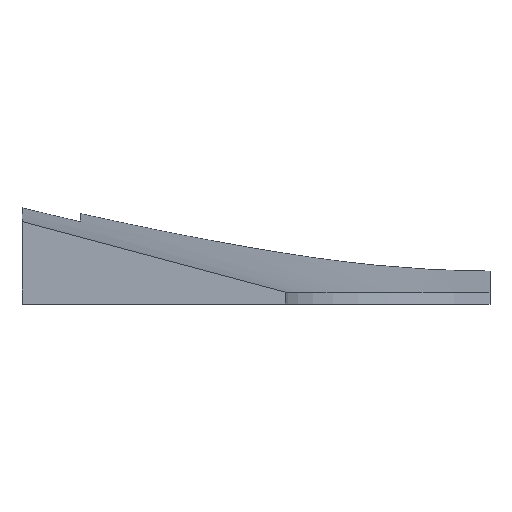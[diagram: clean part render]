
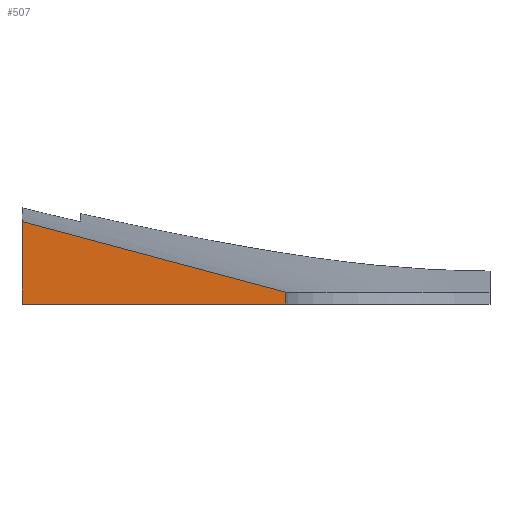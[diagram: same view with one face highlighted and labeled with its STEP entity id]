
A CAD part, left-side view. The second image highlights one B-rep face of the part: STEP entity #507.
In plain terms, the highlighted planar face has unit normal (-1, 0, 0).
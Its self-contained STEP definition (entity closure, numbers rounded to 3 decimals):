
#31 = CONICAL_SURFACE('',#32,112.,1.309);
#32 = AXIS2_PLACEMENT_3D('',#33,#34,#35);
#33 = CARTESIAN_POINT('',(0.,-46.,6.5));
#34 = DIRECTION('',(0.,0.,1.));
#35 = DIRECTION('',(1.,0.,0.));
#54 = VERTEX_POINT('',#55);
#55 = CARTESIAN_POINT('',(0.,66.,6.5));
#70 = CYLINDRICAL_SURFACE('',#71,112.);
#71 = AXIS2_PLACEMENT_3D('',#72,#73,#74);
#72 = CARTESIAN_POINT('',(0.,-46.,-1.));
#73 = DIRECTION('',(-0.,-0.,-1.));
#74 = DIRECTION('',(1.,0.,0.));
#82 = EDGE_CURVE('',#54,#83,#85,.T.);
#83 = VERTEX_POINT('',#84);
#84 = CARTESIAN_POINT('',(0.,210.,45.09));
#85 = SURFACE_CURVE('',#86,(#90,#96),.PCURVE_S1.);
#86 = LINE('',#87,#88);
#87 = CARTESIAN_POINT('',(0.,-46.,-23.515));
#88 = VECTOR('',#89,1.);
#89 = DIRECTION('',(-0.,0.966,0.259));
#90 = PCURVE('',#31,#91);
#91 = DEFINITIONAL_REPRESENTATION('',(#92),#95);
#92 = B_SPLINE_CURVE_WITH_KNOTS('',1,(#93,#94),.UNSPECIFIED.,.F.,.F.,(2,
    2),(115.952,294.038),.PIECEWISE_BEZIER_KNOTS.);
#93 = CARTESIAN_POINT('',(1.571,0.));
#94 = CARTESIAN_POINT('',(1.571,46.098));
#95 = ( GEOMETRIC_REPRESENTATION_CONTEXT(2) 
PARAMETRIC_REPRESENTATION_CONTEXT() REPRESENTATION_CONTEXT('2D SPACE',''
  ) );
#96 = PCURVE('',#97,#102);
#97 = PLANE('',#98);
#98 = AXIS2_PLACEMENT_3D('',#99,#100,#101);
#99 = CARTESIAN_POINT('',(0.,-46.,-2.));
#100 = DIRECTION('',(1.,0.,0.));
#101 = DIRECTION('',(0.,0.,1.));
#102 = DEFINITIONAL_REPRESENTATION('',(#103),#106);
#103 = B_SPLINE_CURVE_WITH_KNOTS('',1,(#104,#105),.UNSPECIFIED.,.F.,.F.,
  (2,2),(115.952,294.038),.PIECEWISE_BEZIER_KNOTS.);
#104 = CARTESIAN_POINT('',(8.5,-112.));
#105 = CARTESIAN_POINT('',(54.598,-284.016));
#106 = ( GEOMETRIC_REPRESENTATION_CONTEXT(2) 
PARAMETRIC_REPRESENTATION_CONTEXT() REPRESENTATION_CONTEXT('2D SPACE',''
  ) );
#136 = PLANE('',#137);
#137 = AXIS2_PLACEMENT_3D('',#138,#139,#140);
#138 = CARTESIAN_POINT('',(-155.,210.,0.));
#139 = DIRECTION('',(0.,1.,0.));
#140 = DIRECTION('',(0.,0.,1.));
#311 = PLANE('',#312);
#312 = AXIS2_PLACEMENT_3D('',#313,#314,#315);
#313 = CARTESIAN_POINT('',(-155.,-210.,0.));
#314 = DIRECTION('',(0.,0.,1.));
#315 = DIRECTION('',(1.,0.,0.));
#467 = VERTEX_POINT('',#468);
#468 = CARTESIAN_POINT('',(0.,210.,0.));
#489 = EDGE_CURVE('',#83,#467,#490,.T.);
#490 = SURFACE_CURVE('',#491,(#495,#501),.PCURVE_S1.);
#491 = LINE('',#492,#493);
#492 = CARTESIAN_POINT('',(0.,210.,-1.));
#493 = VECTOR('',#494,1.);
#494 = DIRECTION('',(0.,0.,-1.));
#495 = PCURVE('',#136,#496);
#496 = DEFINITIONAL_REPRESENTATION('',(#497),#500);
#497 = B_SPLINE_CURVE_WITH_KNOTS('',1,(#498,#499),.UNSPECIFIED.,.F.,.F.,
  (2,2),(-53.598,-1.),.PIECEWISE_BEZIER_KNOTS.);
#498 = CARTESIAN_POINT('',(52.598,155.));
#499 = CARTESIAN_POINT('',(0.,155.));
#500 = ( GEOMETRIC_REPRESENTATION_CONTEXT(2) 
PARAMETRIC_REPRESENTATION_CONTEXT() REPRESENTATION_CONTEXT('2D SPACE',''
  ) );
#501 = PCURVE('',#97,#502);
#502 = DEFINITIONAL_REPRESENTATION('',(#503),#506);
#503 = B_SPLINE_CURVE_WITH_KNOTS('',1,(#504,#505),.UNSPECIFIED.,.F.,.F.,
  (2,2),(-53.598,-1.),.PIECEWISE_BEZIER_KNOTS.);
#504 = CARTESIAN_POINT('',(54.598,-256.));
#505 = CARTESIAN_POINT('',(2.,-256.));
#506 = ( GEOMETRIC_REPRESENTATION_CONTEXT(2) 
PARAMETRIC_REPRESENTATION_CONTEXT() REPRESENTATION_CONTEXT('2D SPACE',''
  ) );
#507 = ADVANCED_FACE('',(#508),#97,.F.);
#508 = FACE_BOUND('',#509,.F.);
#509 = EDGE_LOOP('',(#510,#511,#532,#551));
#510 = ORIENTED_EDGE('',*,*,#82,.F.);
#511 = ORIENTED_EDGE('',*,*,#512,.T.);
#512 = EDGE_CURVE('',#54,#513,#515,.T.);
#513 = VERTEX_POINT('',#514);
#514 = CARTESIAN_POINT('',(0.,66.,0.));
#515 = SURFACE_CURVE('',#516,(#520,#526),.PCURVE_S1.);
#516 = LINE('',#517,#518);
#517 = CARTESIAN_POINT('',(0.,66.,-1.));
#518 = VECTOR('',#519,1.);
#519 = DIRECTION('',(-0.,-0.,-1.));
#520 = PCURVE('',#97,#521);
#521 = DEFINITIONAL_REPRESENTATION('',(#522),#525);
#522 = B_SPLINE_CURVE_WITH_KNOTS('',1,(#523,#524),.UNSPECIFIED.,.F.,.F.,
  (2,2),(-7.5,-1.),.PIECEWISE_BEZIER_KNOTS.);
#523 = CARTESIAN_POINT('',(8.5,-112.));
#524 = CARTESIAN_POINT('',(2.,-112.));
#525 = ( GEOMETRIC_REPRESENTATION_CONTEXT(2) 
PARAMETRIC_REPRESENTATION_CONTEXT() REPRESENTATION_CONTEXT('2D SPACE',''
  ) );
#526 = PCURVE('',#70,#527);
#527 = DEFINITIONAL_REPRESENTATION('',(#528),#531);
#528 = B_SPLINE_CURVE_WITH_KNOTS('',1,(#529,#530),.UNSPECIFIED.,.F.,.F.,
  (2,2),(-7.5,-1.),.PIECEWISE_BEZIER_KNOTS.);
#529 = CARTESIAN_POINT('',(-1.571,-7.5));
#530 = CARTESIAN_POINT('',(-1.571,-1.));
#531 = ( GEOMETRIC_REPRESENTATION_CONTEXT(2) 
PARAMETRIC_REPRESENTATION_CONTEXT() REPRESENTATION_CONTEXT('2D SPACE',''
  ) );
#532 = ORIENTED_EDGE('',*,*,#533,.T.);
#533 = EDGE_CURVE('',#513,#467,#534,.T.);
#534 = SURFACE_CURVE('',#535,(#539,#545),.PCURVE_S1.);
#535 = LINE('',#536,#537);
#536 = CARTESIAN_POINT('',(0.,-128.,0.));
#537 = VECTOR('',#538,1.);
#538 = DIRECTION('',(0.,1.,0.));
#539 = PCURVE('',#97,#540);
#540 = DEFINITIONAL_REPRESENTATION('',(#541),#544);
#541 = B_SPLINE_CURVE_WITH_KNOTS('',1,(#542,#543),.UNSPECIFIED.,.F.,.F.,
  (2,2),(82.,338.),.PIECEWISE_BEZIER_KNOTS.);
#542 = CARTESIAN_POINT('',(2.,0.));
#543 = CARTESIAN_POINT('',(2.,-256.));
#544 = ( GEOMETRIC_REPRESENTATION_CONTEXT(2) 
PARAMETRIC_REPRESENTATION_CONTEXT() REPRESENTATION_CONTEXT('2D SPACE',''
  ) );
#545 = PCURVE('',#311,#546);
#546 = DEFINITIONAL_REPRESENTATION('',(#547),#550);
#547 = B_SPLINE_CURVE_WITH_KNOTS('',1,(#548,#549),.UNSPECIFIED.,.F.,.F.,
  (2,2),(82.,338.),.PIECEWISE_BEZIER_KNOTS.);
#548 = CARTESIAN_POINT('',(155.,164.));
#549 = CARTESIAN_POINT('',(155.,420.));
#550 = ( GEOMETRIC_REPRESENTATION_CONTEXT(2) 
PARAMETRIC_REPRESENTATION_CONTEXT() REPRESENTATION_CONTEXT('2D SPACE',''
  ) );
#551 = ORIENTED_EDGE('',*,*,#489,.F.);
